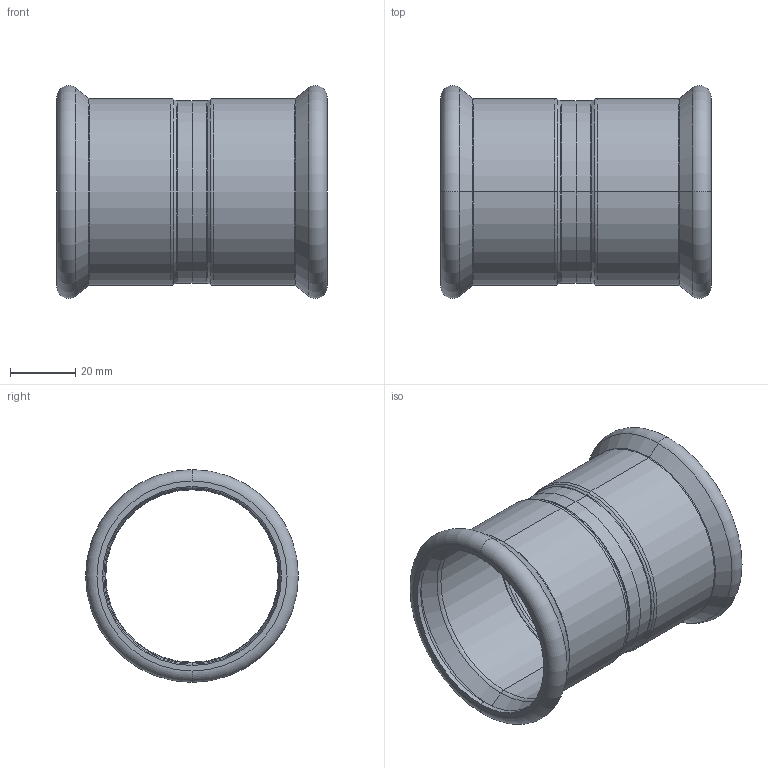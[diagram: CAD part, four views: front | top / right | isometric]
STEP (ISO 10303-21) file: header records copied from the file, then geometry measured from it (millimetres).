
FILE_DESCRIPTION (( 'STEP AP203' ), '1' );
FILE_NAME ('GDA5007.STEP', '2019-01-21T08:51:55', ( '' ), ( '' ), 'SwSTEP 2.0', 'SolidWorks 2015', '' );
FILE_SCHEMA (( 'CONFIG_CONTROL_DESIGN' ));
Length unit declared in the file: millimetre
Products named in the file (1): GDA5007
Bounding box: 83 x 65.4 x 65.4 mm (x, y, z)
Volume: 24439 mm3; surface area: 33626.7 mm2
Topology: 2 solids, 2 shells, 74 faces, 148 edges, 80 vertices
Faces by surface type: torus 32, cylinder 20, cone 16, plane 6
Entity records: 1999 total; most frequent: DIRECTION 410, CARTESIAN_POINT 303, ORIENTED_EDGE 296, AXIS2_PLACEMENT_3D 187, EDGE_CURVE 148, CIRCLE 112, VERTEX_POINT 80, EDGE_LOOP 80
